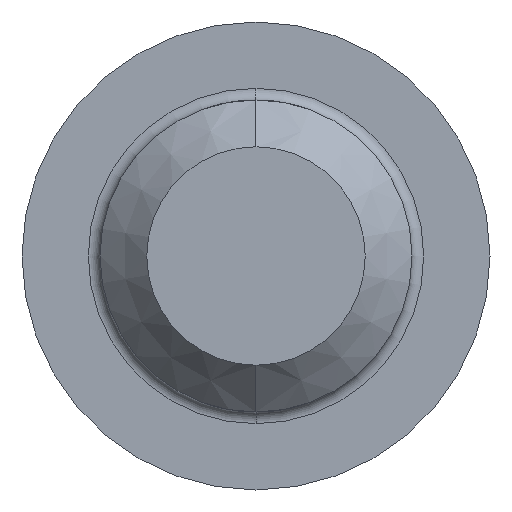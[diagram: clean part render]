
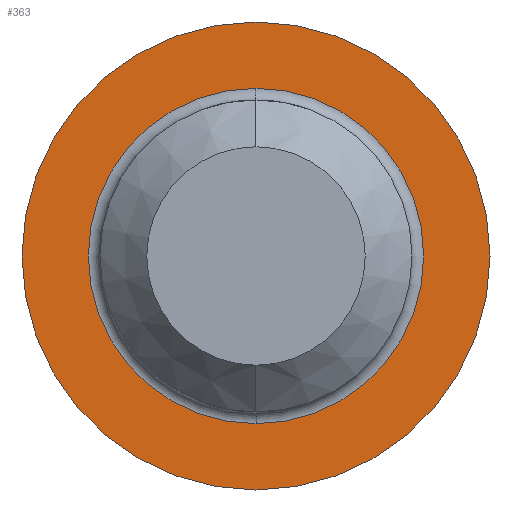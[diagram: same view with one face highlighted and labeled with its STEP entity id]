
A CAD part, left-side view. The second image highlights one B-rep face of the part: STEP entity #363.
In plain terms, the highlighted planar face has unit normal (-1, 0, 0).
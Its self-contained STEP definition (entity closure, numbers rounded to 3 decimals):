
#11 = CARTESIAN_POINT ( 'NONE',  ( 0., 0., 0. ) ) ;
#13 = AXIS2_PLACEMENT_3D ( 'NONE', #11, #14, #15 ) ;
#14 = DIRECTION ( 'NONE',  ( -1., 0., 0. ) ) ;
#15 = DIRECTION ( 'NONE',  ( 0., 0., 1. ) ) ;
#20 = CIRCLE ( 'NONE', #13, 6. ) ;
#21 = DIRECTION ( 'NONE',  ( 0., 0., 1. ) ) ;
#23 = AXIS2_PLACEMENT_3D ( 'NONE', #36, #31, #21 ) ;
#24 = CARTESIAN_POINT ( 'NONE',  ( 0., 0., 6. ) ) ;
#31 = DIRECTION ( 'NONE',  ( -1., 0., 0. ) ) ;
#36 = CARTESIAN_POINT ( 'NONE',  ( 0., 0., 0. ) ) ;
#37 = CIRCLE ( 'NONE', #23, 6. ) ;
#275 = EDGE_CURVE ( 'NONE', #276, #277, #418, .T. ) ;
#276 = VERTEX_POINT ( 'NONE', #423 ) ;
#277 = VERTEX_POINT ( 'NONE', #425 ) ;
#328 = VERTEX_POINT ( 'NONE', #521 ) ;
#336 = ORIENTED_EDGE ( 'NONE', *, *, #338, .T. ) ;
#337 = ORIENTED_EDGE ( 'NONE', *, *, #375, .T. ) ;
#338 = EDGE_CURVE ( 'NONE', #277, #276, #502, .T. ) ;
#361 = ORIENTED_EDGE ( 'NONE', *, *, #275, .T. ) ;
#362 = EDGE_LOOP ( 'NONE', ( #371, #337 ) ) ;
#363 = ADVANCED_FACE ( 'NONE', ( #545, #539 ), #542, .F. ) ;
#371 = ORIENTED_EDGE ( 'NONE', *, *, #440, .T. ) ;
#375 = EDGE_CURVE ( 'NONE', #328, #377, #37, .T. ) ;
#377 = VERTEX_POINT ( 'NONE', #24 ) ;
#393 = EDGE_LOOP ( 'NONE', ( #336, #361 ) ) ;
#408 = DIRECTION ( 'NONE',  ( 0., 0., -1. ) ) ;
#410 = DIRECTION ( 'NONE',  ( 1., 0., 0. ) ) ;
#412 = AXIS2_PLACEMENT_3D ( 'NONE', #421, #410, #408 ) ;
#418 = CIRCLE ( 'NONE', #412, 4.3 ) ;
#421 = CARTESIAN_POINT ( 'NONE',  ( 0., 0., 0. ) ) ;
#423 = CARTESIAN_POINT ( 'NONE',  ( 0., 0., 4.3 ) ) ;
#425 = CARTESIAN_POINT ( 'NONE',  ( 0., 0., -4.3 ) ) ;
#440 = EDGE_CURVE ( 'NONE', #377, #328, #20, .T. ) ;
#485 = CARTESIAN_POINT ( 'NONE',  ( 0., 0., 0. ) ) ;
#502 = CIRCLE ( 'NONE', #510, 4.3 ) ;
#509 = DIRECTION ( 'NONE',  ( 0., 0., -1. ) ) ;
#510 = AXIS2_PLACEMENT_3D ( 'NONE', #485, #518, #509 ) ;
#518 = DIRECTION ( 'NONE',  ( 1., 0., 0. ) ) ;
#521 = CARTESIAN_POINT ( 'NONE',  ( 0., 0., -6. ) ) ;
#535 = DIRECTION ( 'NONE',  ( 1., 0., 0. ) ) ;
#536 = AXIS2_PLACEMENT_3D ( 'NONE', #547, #535, #541 ) ;
#539 = FACE_OUTER_BOUND ( 'NONE', #362, .T. ) ;
#541 = DIRECTION ( 'NONE',  ( 0., 0., -1. ) ) ;
#542 = PLANE ( 'NONE',  #536 ) ;
#545 = FACE_BOUND ( 'NONE', #393, .T. ) ;
#547 = CARTESIAN_POINT ( 'NONE',  ( 0., 6., 0. ) ) ;
